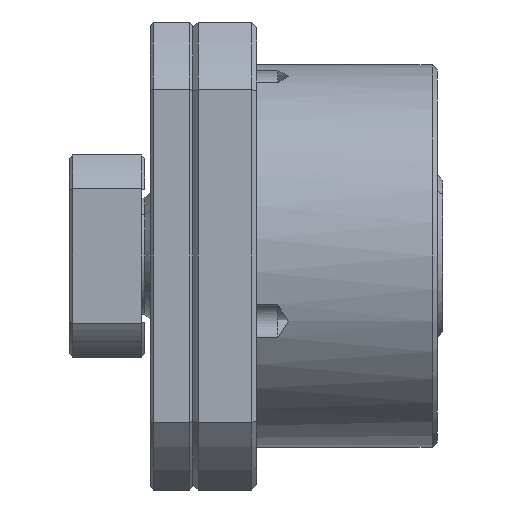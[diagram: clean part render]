
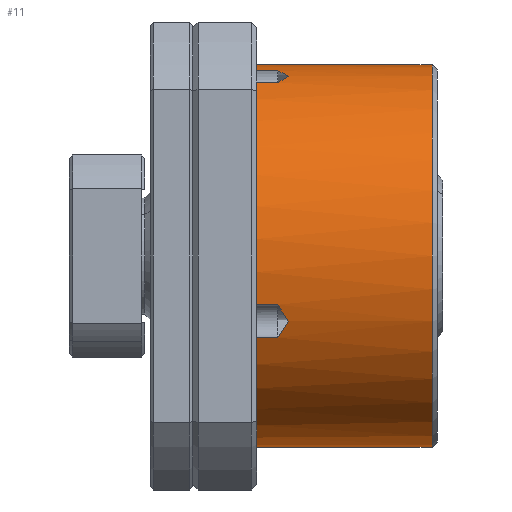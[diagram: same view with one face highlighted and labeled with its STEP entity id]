
A CAD part, front view. The second image highlights one B-rep face of the part: STEP entity #11.
In plain terms, the highlighted cylindrical face has radius 18 mm (diameter 36 mm), a partial arc.
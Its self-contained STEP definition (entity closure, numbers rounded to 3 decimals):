
#11 = ADVANCED_FACE ( 'NONE', ( #3204 ), #3017, .T. ) ;
#17 = CARTESIAN_POINT ( 'NONE',  ( 6., 0., 0. ) ) ;
#28 = VERTEX_POINT ( 'NONE', #7428 ) ;
#58 = CARTESIAN_POINT ( 'NONE',  ( 8.33, -16.514, -7.182 ) ) ;
#73 = VECTOR ( 'NONE', #5166, 1000. ) ;
#144 = CARTESIAN_POINT ( 'NONE',  ( 22.5, 0., 18. ) ) ;
#234 = VECTOR ( 'NONE', #7177, 1000. ) ;
#331 = VERTEX_POINT ( 'NONE', #455 ) ;
#418 = LINE ( 'NONE', #722, #234 ) ;
#455 = CARTESIAN_POINT ( 'NONE',  ( 8.991, -16.914, -6.156 ) ) ;
#482 = EDGE_CURVE ( 'NONE', #5219, #5881, #6724, .T. ) ;
#484 = ORIENTED_EDGE ( 'NONE', *, *, #482, .F. ) ;
#582 = DIRECTION ( 'NONE',  ( 1., 0., 0. ) ) ;
#606 = DIRECTION ( 'NONE',  ( 0., 0., 1. ) ) ;
#670 = LINE ( 'NONE', #2345, #2048 ) ;
#716 = ORIENTED_EDGE ( 'NONE', *, *, #4045, .T. ) ;
#722 = CARTESIAN_POINT ( 'NONE',  ( -5.326, 0., -18. ) ) ;
#992 = EDGE_CURVE ( 'NONE', #6982, #5881, #4761, .T. ) ;
#1027 = CARTESIAN_POINT ( 'NONE',  ( 4., -16.28, -7.679 ) ) ;
#1031 = VERTEX_POINT ( 'NONE', #3150 ) ;
#1155 = ORIENTED_EDGE ( 'NONE', *, *, #2383, .F. ) ;
#1230 = ORIENTED_EDGE ( 'NONE', *, *, #5893, .T. ) ;
#1236 = B_SPLINE_CURVE_WITH_KNOTS ( 'NONE', 3,
 ( #7423, #3898, #5709, #2145 ),
 .UNSPECIFIED., .F., .F.,
 ( 4, 4 ),
 ( 0., 0.002 ),
 .UNSPECIFIED. ) ;
#1439 = CARTESIAN_POINT ( 'NONE',  ( 8., -4.582, 17.407 ) ) ;
#1544 = CARTESIAN_POINT ( 'NONE',  ( -5.326, 0., 0. ) ) ;
#1634 = LINE ( 'NONE', #1027, #73 ) ;
#1636 = DIRECTION ( 'NONE',  ( -1., 0., 0. ) ) ;
#1713 = ORIENTED_EDGE ( 'NONE', *, *, #4791, .T. ) ;
#1753 = EDGE_CURVE ( 'NONE', #6546, #4130, #418, .T. ) ;
#1757 = DIRECTION ( 'NONE',  ( 1., 0., 0. ) ) ;
#1784 = CARTESIAN_POINT ( 'NONE',  ( 8., -16.28, -7.679 ) ) ;
#1802 = CARTESIAN_POINT ( 'NONE',  ( 8.661, -16.726, -6.674 ) ) ;
#1855 = CARTESIAN_POINT ( 'NONE',  ( 4., -7.679, 16.28 ) ) ;
#1916 = CARTESIAN_POINT ( 'NONE',  ( 8.33, -17.267, -5.113 ) ) ;
#1956 = AXIS2_PLACEMENT_3D ( 'NONE', #5178, #1636, #5771 ) ;
#1963 = LINE ( 'NONE', #7085, #6493 ) ;
#2048 = VECTOR ( 'NONE', #582, 1000. ) ;
#2109 = CARTESIAN_POINT ( 'NONE',  ( 6., -7.679, 16.28 ) ) ;
#2145 = CARTESIAN_POINT ( 'NONE',  ( 8., -7.679, 16.28 ) ) ;
#2345 = CARTESIAN_POINT ( 'NONE',  ( 4., -17.407, -4.582 ) ) ;
#2363 = AXIS2_PLACEMENT_3D ( 'NONE', #17, #4133, #606 ) ;
#2383 = EDGE_CURVE ( 'NONE', #6843, #3136, #3985, .T. ) ;
#2548 = CARTESIAN_POINT ( 'NONE',  ( 8.991, -6.156, 16.914 ) ) ;
#2564 = ORIENTED_EDGE ( 'NONE', *, *, #992, .T. ) ;
#2615 = CARTESIAN_POINT ( 'NONE',  ( 8.33, -5.113, 17.267 ) ) ;
#2679 = EDGE_CURVE ( 'NONE', #5219, #28, #1963, .T. ) ;
#2683 = EDGE_CURVE ( 'NONE', #331, #5036, #7011, .T. ) ;
#2802 = ORIENTED_EDGE ( 'NONE', *, *, #6988, .T. ) ;
#2900 = AXIS2_PLACEMENT_3D ( 'NONE', #1544, #3874, #5084 ) ;
#2998 = VECTOR ( 'NONE', #3414, 1000. ) ;
#3015 = VERTEX_POINT ( 'NONE', #2548 ) ;
#3017 = CYLINDRICAL_SURFACE ( 'NONE', #2900, 18. ) ;
#3026 = CARTESIAN_POINT ( 'NONE',  ( 6., 0., 0. ) ) ;
#3051 = VERTEX_POINT ( 'NONE', #3188 ) ;
#3136 = VERTEX_POINT ( 'NONE', #2109 ) ;
#3150 = CARTESIAN_POINT ( 'NONE',  ( 8., -17.407, -4.582 ) ) ;
#3178 = CARTESIAN_POINT ( 'NONE',  ( 6., 0., 18. ) ) ;
#3188 = CARTESIAN_POINT ( 'NONE',  ( 6., -16.28, -7.679 ) ) ;
#3204 = FACE_OUTER_BOUND ( 'NONE', #3742, .T. ) ;
#3212 = CARTESIAN_POINT ( 'NONE',  ( 8.661, -5.64, 17.102 ) ) ;
#3335 = AXIS2_PLACEMENT_3D ( 'NONE', #3026, #7141, #3604 ) ;
#3381 = DIRECTION ( 'NONE',  ( 0., 0., 1. ) ) ;
#3414 = DIRECTION ( 'NONE',  ( -1., 0., 0. ) ) ;
#3604 = DIRECTION ( 'NONE',  ( 0., 0., 1. ) ) ;
#3645 = ORIENTED_EDGE ( 'NONE', *, *, #7206, .T. ) ;
#3678 = CARTESIAN_POINT ( 'NONE',  ( 8.991, -16.914, -6.156 ) ) ;
#3709 = DIRECTION ( 'NONE',  ( -1., 0., 0. ) ) ;
#3742 = EDGE_LOOP ( 'NONE', ( #6116, #6818, #2564, #484, #4581, #1230, #1713, #5248, #1155, #3645, #2802, #4763, #716, #5748 ) ) ;
#3874 = DIRECTION ( 'NONE',  ( -1., 0., 0. ) ) ;
#3898 = CARTESIAN_POINT ( 'NONE',  ( 8.661, -6.674, 16.726 ) ) ;
#3906 = CARTESIAN_POINT ( 'NONE',  ( -5.326, 0., 18. ) ) ;
#3954 = CARTESIAN_POINT ( 'NONE',  ( 8., -7.679, 16.28 ) ) ;
#3985 = CIRCLE ( 'NONE', #2363, 18. ) ;
#4045 = EDGE_CURVE ( 'NONE', #5036, #3051, #1634, .T. ) ;
#4130 = VERTEX_POINT ( 'NONE', #5822 ) ;
#4133 = DIRECTION ( 'NONE',  ( -1., 0., 0. ) ) ;
#4171 = CARTESIAN_POINT ( 'NONE',  ( 8., -16.28, -7.679 ) ) ;
#4334 = CARTESIAN_POINT ( 'NONE',  ( 22.5, 0., -18. ) ) ;
#4404 = CARTESIAN_POINT ( 'NONE',  ( 6., 0., 0. ) ) ;
#4581 = ORIENTED_EDGE ( 'NONE', *, *, #2679, .T. ) ;
#4657 = EDGE_CURVE ( 'NONE', #6546, #6982, #7506, .T. ) ;
#4667 = VERTEX_POINT ( 'NONE', #3954 ) ;
#4761 = LINE ( 'NONE', #3906, #2998 ) ;
#4763 = ORIENTED_EDGE ( 'NONE', *, *, #2683, .T. ) ;
#4791 = EDGE_CURVE ( 'NONE', #3015, #4667, #1236, .T. ) ;
#5036 = VERTEX_POINT ( 'NONE', #1784 ) ;
#5084 = DIRECTION ( 'NONE',  ( 0., 0., 1. ) ) ;
#5166 = DIRECTION ( 'NONE',  ( -1., 0., 0. ) ) ;
#5178 = CARTESIAN_POINT ( 'NONE',  ( 22.5, 0., 0. ) ) ;
#5195 = CIRCLE ( 'NONE', #3335, 18. ) ;
#5198 = AXIS2_PLACEMENT_3D ( 'NONE', #4404, #3709, #3381 ) ;
#5219 = VERTEX_POINT ( 'NONE', #6764 ) ;
#5248 = ORIENTED_EDGE ( 'NONE', *, *, #5860, .T. ) ;
#5399 = DIRECTION ( 'NONE',  ( -1., 0., 0. ) ) ;
#5709 = CARTESIAN_POINT ( 'NONE',  ( 8.33, -7.182, 16.514 ) ) ;
#5748 = ORIENTED_EDGE ( 'NONE', *, *, #7281, .F. ) ;
#5771 = DIRECTION ( 'NONE',  ( 0., 0., 1. ) ) ;
#5776 = LINE ( 'NONE', #1855, #7492 ) ;
#5822 = CARTESIAN_POINT ( 'NONE',  ( 6., 0., -18. ) ) ;
#5860 = EDGE_CURVE ( 'NONE', #4667, #3136, #5776, .T. ) ;
#5881 = VERTEX_POINT ( 'NONE', #3178 ) ;
#5893 = EDGE_CURVE ( 'NONE', #28, #3015, #7163, .T. ) ;
#5953 = CARTESIAN_POINT ( 'NONE',  ( 8.991, -16.914, -6.156 ) ) ;
#6056 = B_SPLINE_CURVE_WITH_KNOTS ( 'NONE', 3,
 ( #6650, #1916, #7212, #3678 ),
 .UNSPECIFIED., .F., .F.,
 ( 4, 4 ),
 ( 0.002, 0.004 ),
 .UNSPECIFIED. ) ;
#6116 = ORIENTED_EDGE ( 'NONE', *, *, #1753, .F. ) ;
#6409 = CARTESIAN_POINT ( 'NONE',  ( 6., -17.407, -4.582 ) ) ;
#6493 = VECTOR ( 'NONE', #1757, 1000. ) ;
#6546 = VERTEX_POINT ( 'NONE', #4334 ) ;
#6650 = CARTESIAN_POINT ( 'NONE',  ( 8., -17.407, -4.582 ) ) ;
#6724 = CIRCLE ( 'NONE', #5198, 18. ) ;
#6764 = CARTESIAN_POINT ( 'NONE',  ( 6., -4.582, 17.407 ) ) ;
#6818 = ORIENTED_EDGE ( 'NONE', *, *, #4657, .T. ) ;
#6843 = VERTEX_POINT ( 'NONE', #6409 ) ;
#6982 = VERTEX_POINT ( 'NONE', #144 ) ;
#6988 = EDGE_CURVE ( 'NONE', #1031, #331, #6056, .T. ) ;
#7011 = B_SPLINE_CURVE_WITH_KNOTS ( 'NONE', 3,
 ( #5953, #1802, #58, #4171 ),
 .UNSPECIFIED., .F., .F.,
 ( 4, 4 ),
 ( 0., 0.002 ),
 .UNSPECIFIED. ) ;
#7085 = CARTESIAN_POINT ( 'NONE',  ( 4., -4.582, 17.407 ) ) ;
#7141 = DIRECTION ( 'NONE',  ( -1., 0., 0. ) ) ;
#7163 = B_SPLINE_CURVE_WITH_KNOTS ( 'NONE', 3,
 ( #1439, #2615, #3212, #7326 ),
 .UNSPECIFIED., .F., .F.,
 ( 4, 4 ),
 ( 0.002, 0.004 ),
 .UNSPECIFIED. ) ;
#7177 = DIRECTION ( 'NONE',  ( -1., 0., 0. ) ) ;
#7206 = EDGE_CURVE ( 'NONE', #6843, #1031, #670, .T. ) ;
#7212 = CARTESIAN_POINT ( 'NONE',  ( 8.661, -17.102, -5.64 ) ) ;
#7281 = EDGE_CURVE ( 'NONE', #4130, #3051, #5195, .T. ) ;
#7326 = CARTESIAN_POINT ( 'NONE',  ( 8.991, -6.156, 16.914 ) ) ;
#7423 = CARTESIAN_POINT ( 'NONE',  ( 8.991, -6.156, 16.914 ) ) ;
#7428 = CARTESIAN_POINT ( 'NONE',  ( 8., -4.582, 17.407 ) ) ;
#7492 = VECTOR ( 'NONE', #5399, 1000. ) ;
#7506 = CIRCLE ( 'NONE', #1956, 18. ) ;
